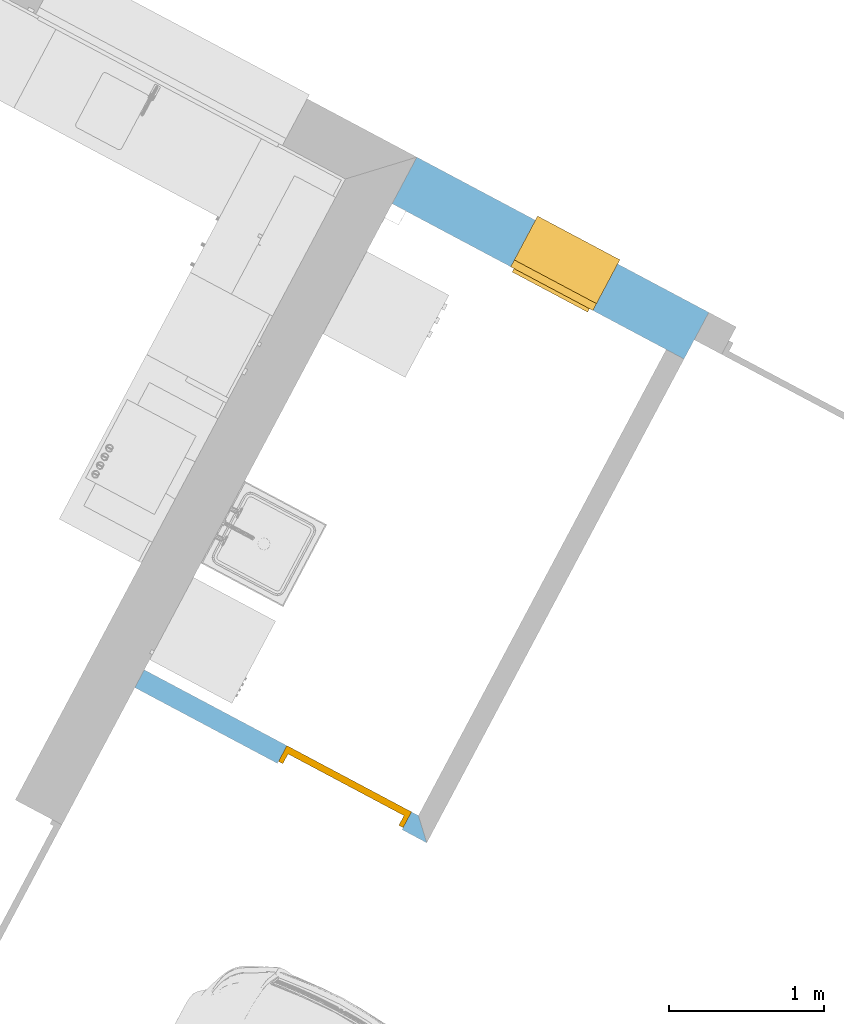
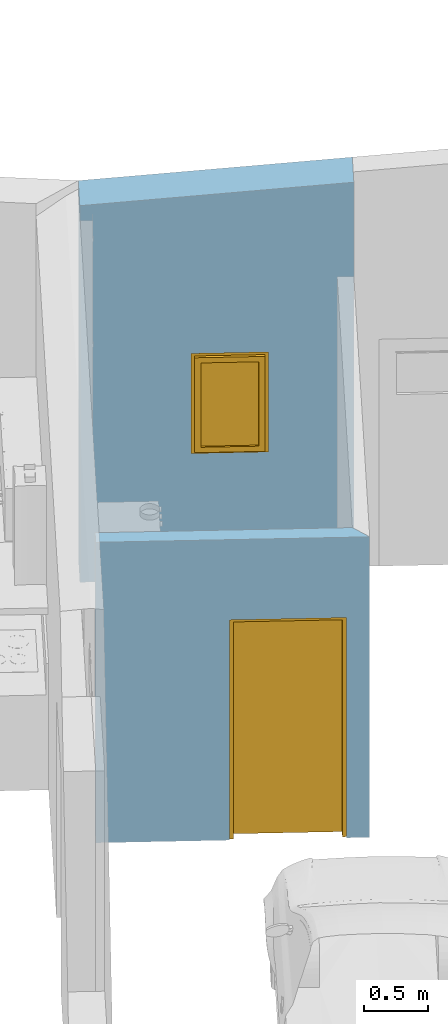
# One storey, part 12 of 27: 1 door, 1 window, 2 openings, plus 2 elements that do not belong to this part.
"""IFC2X3 building model written with IfcOpenShell, lengths in metres."""

from ifc_helpers import new_model, entity, si_unit, converted_unit, derived_unit, money_unit, direction, frame, origin_with_axes, origin_2d_with_axis, place, context, subcontext, project, spatial, polyline, rectangle, outline, extrude, clip, bounded_halfspace, open_shell, faceted_brep, surface_model, material, layer, layer_set, layer_usage, type_object, element, fill, save


model = new_model("IFC2X3")

# Units and contexts
model_context = context("Model", 3, precision=1e-05, world=origin_with_axes(), true_north=direction((0.0, 1.0)))
body_context = subcontext(model_context, "Body", "Model", "MODEL_VIEW")
ifc_project = project(units=[si_unit("LENGTHUNIT", "METRE"), si_unit("AREAUNIT", "SQUARE_METRE"), si_unit("VOLUMEUNIT", "CUBIC_METRE"), converted_unit("PLANEANGLEUNIT", "DEGREE", entity("IfcPlaneAngleMeasure", 0.0174532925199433), si_unit("PLANEANGLEUNIT", "RADIAN"), dimensions=[0, 0, 0, 0, 0, 0, 0]), money_unit("CHF"), converted_unit("TIMEUNIT", "Year", entity("IfcTimeMeasure", 31557600.0), si_unit("TIMEUNIT", "SECOND"), dimensions=[0, 0, 1, 0, 0, 0, 0]), si_unit("MASSUNIT", "GRAM", prefix="KILO"), si_unit("THERMODYNAMICTEMPERATUREUNIT", "DEGREE_CELSIUS"), si_unit("LUMINOUSINTENSITYUNIT", "LUMEN"), si_unit("ENERGYUNIT", "JOULE", prefix="MEGA"), derived_unit("THERMALCONDUCTANCEUNIT", [(si_unit("POWERUNIT", "WATT"), 1), (si_unit("LENGTHUNIT", "METRE"), -1), (si_unit("THERMODYNAMICTEMPERATUREUNIT", "KELVIN"), -1)]), derived_unit("SPECIFICHEATCAPACITYUNIT", [(si_unit("ENERGYUNIT", "JOULE"), 1), (si_unit("MASSUNIT", "GRAM", prefix="KILO"), -1), (si_unit("THERMODYNAMICTEMPERATUREUNIT", "KELVIN"), -1)]), derived_unit("MASSDENSITYUNIT", [(si_unit("MASSUNIT", "GRAM", prefix="KILO"), 1), (si_unit("VOLUMEUNIT", "CUBIC_METRE"), -1)])], contexts=[model_context])

# Site, building, storey
site_placement = place(None, frame((0.0, 0.0, 0.0), z_axis=(0.0, 0.0, 1.0), x_axis=(-0.4694715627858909, -0.8829475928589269, 0.0)))
site = spatial("IfcSite", under=ifc_project, at=site_placement, Name="Site", CompositionType="ELEMENT")
building_placement = place(site_placement, origin_with_axes())
building = spatial("IfcBuilding", under=site, at=building_placement, Name="Bâtiment", CompositionType="ELEMENT")
storey_placement = place(building_placement, origin_with_axes())
storey = spatial("IfcBuildingStorey", under=building, at=storey_placement, Name="RDC", CompositionType="ELEMENT", Elevation=0.0)

# Wall, opening, window
ifc_material_1 = material(Name="Maçonnerie 290464332")
ifc_layer_1 = layer(ifc_material_1, 0.2, ventilated="UNKNOWN")
ifc_material_2 = material(Name="Isolation 272048125")
ifc_layer_2 = layer(ifc_material_2, 0.14, ventilated="UNKNOWN")
ifc_layer_set_1 = layer_set([ifc_layer_1, ifc_layer_2], Name="MUR EXT 34 0024849982")
ifc_layer_usage_1 = layer_usage(ifc_layer_set_1, "AXIS2", "NEGATIVE", 0.0)
wall_type_1 = type_object("IfcWallType", Name="MUR EXT 34 0024849982 340", PredefinedType="NOTDEFINED")
wall_1_placement = place(storey_placement, frame((133.6895710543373, -828.6945991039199, 0.0), z_axis=(0.0, 0.0, 1.0), x_axis=(0.0, 1.0, 0.0)))
wall_1 = element("IfcWallStandardCase", 1, at=wall_1_placement, inside=storey, type_object=wall_type_1, material=ifc_layer_usage_1, Name="Mur-395", context=body_context, shape_type="Clipping", body=[
    clip(extrude(outline(polyline([(0.0, -0.3400000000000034), (2.129999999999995, -0.3400000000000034), (2.129999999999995, 0.0), (0.0, 0.0), (0.0, -0.3400000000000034)])), origin_with_axes(), (0.0, 0.0, 1.0), 5.0), bounded_halfspace(frame((-0.2839427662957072, 0.0, 3.54928457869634), z_axis=(0.07974522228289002, 0.0, -0.9968152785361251), x_axis=(0.0, 1.0, 0.0)), True, origin_with_axes(), polyline([(0.0, -0.3500000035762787), (7.000010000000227, -0.3500000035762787), (7.000010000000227, 0.01), (0.0, 0.01), (0.0, -0.3500000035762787)]))),
])
opening_1_placement = place(wall_1_placement, frame((1.165000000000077, 0.0, 1.2), z_axis=(0.0, 0.0, 1.0), x_axis=(1.0, 0.0, 0.0)))
opening_1 = element("IfcOpeningElement", 2, at=opening_1_placement, cuts=wall_1, Name="Fen-158", context=body_context, shape_type="SweptSolid", body=[
    extrude(rectangle(XDim=0.599999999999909, YDim=0.9500000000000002, at=origin_2d_with_axis()), frame((0.0, 0.3400000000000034, 0.4750000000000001), z_axis=(0.0, -1.0, 0.0), x_axis=(1.0, 0.0, 0.0)), (0.0, 0.0, 1.0), 1.02),
])
window_style = type_object("IfcWindowStyle", Name="Fen châssis simple 10", ConstructionType="NOTDEFINED", OperationType="SINGLE_PANEL", ParameterTakesPrecedence=False, Sizeable=False)
window_placement = place(opening_1_placement, frame((-0.2999999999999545, 0.0, 0.0), z_axis=(0.0, 0.0, 1.0), x_axis=(1.0, 0.0, 0.0)))
window = element("IfcWindow", 3, at=window_placement, inside=storey, type_object=window_style, Name="Fen-158", OverallHeight=0.95, OverallWidth=0.6, context=body_context, shape_type="SurfaceModel", body=[
    faceted_brep([(0.599999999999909, -0.289999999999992, 0.0), (0.599999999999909, 0.0, 0.0), (0.599999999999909, 0.0, 0.009801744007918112), (0.599999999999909, -0.289999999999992, 0.02499999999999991), (0.0, -0.289999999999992, 0.0), (0.0, 0.0, 0.0), (0.0, 0.03000000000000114, 0.0), (0.599999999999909, 0.03000000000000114, 0.0), (0.599999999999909, 0.03000000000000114, 0.008229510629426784), (0.0, 0.03000000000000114, 0.008229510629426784), (0.0, 0.0, 0.009801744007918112), (0.0, -0.289999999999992, 0.02499999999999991)], [[[0, 1, 2, 3]], [[0, 4, 5, 6, 7, 1]], [[1, 7, 8, 2]], [[3, 2, 8, 9, 10, 11]], [[4, 0, 3, 11]], [[5, 4, 11, 10]], [[6, 5, 10, 9]], [[7, 6, 9, 8]]]),
    faceted_brep([(0.04999999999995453, -0.3400000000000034, 0.8999999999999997), (0.04999999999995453, -0.289999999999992, 0.8999999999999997), (0.0, -0.289999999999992, 0.8999999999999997), (0.0, -0.3400000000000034, 0.8999999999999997), (0.04999999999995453, -0.3400000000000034, 0.05000000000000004), (0.04999999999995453, -0.289999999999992, 0.05000000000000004), (0.0, -0.289999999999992, 0.05000000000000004), (0.0, -0.3400000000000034, 0.05000000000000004)], [[[0, 1, 2, 3]], [[4, 5, 1, 0]], [[2, 1, 5, 6]], [[3, 2, 6, 7]], [[4, 0, 3, 7]], [[7, 6, 5, 4]]]),
    faceted_brep([(0.5499999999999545, -0.3400000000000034, 0.05000000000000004), (0.5499999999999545, -0.289999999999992, 0.05000000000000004), (0.599999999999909, -0.289999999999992, 0.05000000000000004), (0.599999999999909, -0.3400000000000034, 0.05000000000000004), (0.5499999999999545, -0.3400000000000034, 0.8999999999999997), (0.5499999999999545, -0.289999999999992, 0.8999999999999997), (0.599999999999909, -0.289999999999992, 0.8999999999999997), (0.599999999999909, -0.3400000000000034, 0.8999999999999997)], [[[0, 1, 2, 3]], [[4, 5, 1, 0]], [[2, 1, 5, 6]], [[3, 2, 6, 7]], [[4, 0, 3, 7]], [[7, 6, 5, 4]]]),
    faceted_brep([(0.5499999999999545, -0.3400000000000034, 0.8999999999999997), (0.5499999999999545, -0.289999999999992, 0.8999999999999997), (0.599999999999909, -0.289999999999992, 0.8999999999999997), (0.599999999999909, -0.3400000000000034, 0.8999999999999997), (0.04999999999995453, -0.3400000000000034, 0.8999999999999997), (0.04999999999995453, -0.289999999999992, 0.8999999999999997), (0.0, -0.289999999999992, 0.8999999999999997), (0.0, -0.289999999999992, 0.95), (0.599999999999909, -0.289999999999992, 0.95), (0.599999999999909, -0.3400000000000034, 0.95), (0.0, -0.3400000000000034, 0.95), (0.0, -0.3400000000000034, 0.8999999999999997)], [[[0, 1, 2, 3]], [[4, 5, 1, 0]], [[2, 1, 5, 6, 7, 8]], [[3, 2, 8, 9]], [[4, 0, 3, 9, 10, 11]], [[11, 6, 5, 4]], [[10, 7, 6, 11]], [[9, 8, 7, 10]]]),
    faceted_brep([(0.04999999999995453, -0.3400000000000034, 0.05000000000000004), (0.04999999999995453, -0.289999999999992, 0.05000000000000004), (0.0, -0.289999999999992, 0.05000000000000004), (0.0, -0.3400000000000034, 0.05000000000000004), (0.5499999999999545, -0.3400000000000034, 0.05000000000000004), (0.5499999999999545, -0.289999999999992, 0.05000000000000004), (0.599999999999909, -0.289999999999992, 0.05000000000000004), (0.599999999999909, -0.289999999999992, 0.0), (0.0, -0.289999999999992, 0.0), (0.0, -0.3400000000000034, 0.0), (0.599999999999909, -0.3400000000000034, 0.0), (0.599999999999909, -0.3400000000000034, 0.05000000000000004)], [[[0, 1, 2, 3]], [[4, 5, 1, 0]], [[2, 1, 5, 6, 7, 8]], [[3, 2, 8, 9]], [[4, 0, 3, 9, 10, 11]], [[11, 6, 5, 4]], [[10, 7, 6, 11]], [[9, 8, 7, 10]]]),
    faceted_brep([(0.5249999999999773, -0.3149999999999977, 0.07499999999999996), (0.5249999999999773, -0.3649999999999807, 0.07499999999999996), (0.5249999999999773, -0.3649999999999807, 0.8749999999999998), (0.5249999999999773, -0.3149999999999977, 0.8749999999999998), (0.5749999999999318, -0.3149999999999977, 0.07499999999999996), (0.5749999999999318, -0.3649999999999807, 0.07499999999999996), (0.5749999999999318, -0.3649999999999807, 0.8749999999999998), (0.5749999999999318, -0.3149999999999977, 0.8749999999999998)], [[[0, 1, 2, 3]], [[4, 5, 1, 0]], [[1, 5, 6, 2]], [[3, 2, 6, 7]], [[0, 3, 7, 4]], [[7, 6, 5, 4]]]),
    faceted_brep([(0.02499999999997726, -0.3149999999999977, 0.07499999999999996), (0.02499999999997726, -0.3649999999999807, 0.07499999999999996), (0.02499999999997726, -0.3649999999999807, 0.8749999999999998), (0.02499999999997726, -0.3149999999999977, 0.8749999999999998), (0.07499999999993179, -0.3149999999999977, 0.07499999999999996), (0.07499999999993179, -0.3649999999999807, 0.07499999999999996), (0.07499999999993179, -0.3649999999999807, 0.8749999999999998), (0.07499999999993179, -0.3149999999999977, 0.8749999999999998)], [[[0, 1, 2, 3]], [[4, 5, 1, 0]], [[1, 5, 6, 2]], [[3, 2, 6, 7]], [[0, 3, 7, 4]], [[7, 6, 5, 4]]]),
    faceted_brep([(0.02499999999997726, -0.3149999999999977, 0.02499999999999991), (0.02499999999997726, -0.3649999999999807, 0.02499999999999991), (0.02499999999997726, -0.3649999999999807, 0.07499999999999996), (0.02499999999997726, -0.3149999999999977, 0.07499999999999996), (0.5749999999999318, -0.3149999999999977, 0.02499999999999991), (0.5749999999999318, -0.3649999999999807, 0.02499999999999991), (0.5749999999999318, -0.3649999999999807, 0.07499999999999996), (0.5249999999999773, -0.3649999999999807, 0.07499999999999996), (0.07499999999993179, -0.3649999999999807, 0.07499999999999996), (0.07499999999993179, -0.3149999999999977, 0.07499999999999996), (0.5249999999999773, -0.3149999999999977, 0.07499999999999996), (0.5749999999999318, -0.3149999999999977, 0.07499999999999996)], [[[0, 1, 2, 3]], [[4, 5, 1, 0]], [[1, 5, 6, 7, 8, 2]], [[3, 2, 8, 9]], [[0, 3, 9, 10, 11, 4]], [[11, 6, 5, 4]], [[10, 7, 6, 11]], [[9, 8, 7, 10]]]),
    faceted_brep([(0.5749999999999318, -0.3149999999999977, 0.925), (0.5749999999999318, -0.3649999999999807, 0.925), (0.5749999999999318, -0.3649999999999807, 0.8749999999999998), (0.5749999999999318, -0.3149999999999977, 0.8749999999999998), (0.02499999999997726, -0.3149999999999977, 0.925), (0.02499999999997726, -0.3649999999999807, 0.925), (0.02499999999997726, -0.3649999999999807, 0.8749999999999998), (0.07499999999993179, -0.3649999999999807, 0.8749999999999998), (0.5249999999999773, -0.3649999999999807, 0.8749999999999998), (0.5249999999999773, -0.3149999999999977, 0.8749999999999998), (0.07499999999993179, -0.3149999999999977, 0.8749999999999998), (0.02499999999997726, -0.3149999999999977, 0.8749999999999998)], [[[0, 1, 2, 3]], [[4, 5, 1, 0]], [[1, 5, 6, 7, 8, 2]], [[3, 2, 8, 9]], [[0, 3, 9, 10, 11, 4]], [[11, 6, 5, 4]], [[10, 7, 6, 11]], [[9, 8, 7, 10]]]),
    surface_model("IfcShellBasedSurfaceModel", [(0.5249999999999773, -0.3299999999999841, 0.07499999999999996), (0.07499999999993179, -0.3299999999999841, 0.07499999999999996), (0.07499999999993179, -0.3299999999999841, 0.8749999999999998), (0.5249999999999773, -0.3299999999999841, 0.8749999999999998)], [open_shell([[[0, 1, 2, 3]]])]),
    surface_model("IfcShellBasedSurfaceModel", [(0.5249999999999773, -0.3499999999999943, 0.07499999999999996), (0.5249999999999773, -0.3499999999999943, 0.8749999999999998), (0.07499999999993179, -0.3499999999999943, 0.8749999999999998), (0.07499999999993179, -0.3499999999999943, 0.07499999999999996)], [open_shell([[[0, 1, 2, 3]]])]),
])
fill(opening_1, window)

# Wall, opening, door
ifc_layer_3 = layer(ifc_material_2, 0.01, ventilated="UNKNOWN")
ifc_material_3 = material(Name="Bloc béton 288373292")
ifc_layer_4 = layer(ifc_material_3, 0.11, ventilated="UNKNOWN")
ifc_layer_5 = layer(ifc_material_2, 0.01, ventilated="UNKNOWN")
ifc_layer_set_2 = layer_set([ifc_layer_3, ifc_layer_4, ifc_layer_5], Name="CLOISON PLACOSTYL 13 0024849982")
ifc_layer_usage_2 = layer_usage(ifc_layer_set_2, "AXIS2", "NEGATIVE", 0.0)
wall_type_2 = type_object("IfcWallType", Name="CLOISON PLACOSTYL 13 0024849982 130", PredefinedType="NOTDEFINED")
wall_2_placement = place(storey_placement, frame((137.4295710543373, -828.6945991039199, 0.0), z_axis=(0.0, 0.0, 1.0), x_axis=(0.0, 1.0, 0.0)))
wall_2 = element("IfcWallStandardCase", 4, at=wall_2_placement, inside=storey, type_object=wall_type_2, material=ifc_layer_usage_2, Name="Mur-397", context=body_context, shape_type="SweptSolid", body=[
    extrude(outline(polyline([(0.0, -0.1299999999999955), (2.129999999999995, -0.1299999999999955), (2.0, 0.0), (0.0, 0.0), (0.0, -0.1299999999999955)])), origin_with_axes(), (0.0, 0.0, 1.0), 2.85),
])
opening_2_placement = place(wall_2_placement, frame((1.495000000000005, 0.0, 0.0), z_axis=(0.0, 0.0, 1.0), x_axis=(1.0, 0.0, 0.0)))
opening_2 = element("IfcOpeningElement", 5, at=opening_2_placement, cuts=wall_2, Name="porte 77", context=body_context, shape_type="SweptSolid", body=[
    extrude(rectangle(XDim=0.9100000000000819, YDim=2.09, at=origin_2d_with_axis()), frame((0.0, -0.1299999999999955, 1.045), z_axis=(0.0, 1.0, 0.0), x_axis=(1.0, 0.0, 0.0)), (0.0, 0.0, 1.0), 0.39),
])
door_style = type_object("IfcDoorStyle", Name="P_int simple à carreaux 10", ConstructionType="NOTDEFINED", OperationType="SINGLE_SWING_RIGHT", ParameterTakesPrecedence=False, Sizeable=False)
door_placement = place(opening_2_placement, frame((-0.4550000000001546, 0.0, 0.0), z_axis=(0.0, 0.0, 1.0), x_axis=(1.0, 0.0, 0.0)))
door = element("IfcDoor", 6, at=door_placement, inside=storey, type_object=door_style, Name="porte 77", OverallHeight=2.09, OverallWidth=0.91, context=body_context, shape_type="Brep", body=[
    faceted_brep([(0.03200000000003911, -0.04400000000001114, 0.0), (0.03200000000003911, -0.04400000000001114, 2.058), (0.03200000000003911, -0.1150000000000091, 2.058), (0.03200000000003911, -0.1150000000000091, 0.0), (0.0200000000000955, -0.04400000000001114, 2.058), (0.0200000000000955, -0.04400000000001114, 0.0), (0.0200000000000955, 0.0, 2.058), (0.0, 0.0, 2.058), (0.0, -0.1150000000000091, 2.058), (0.0, -0.1150000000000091, 0.0), (0.0, 0.0, 0.0), (0.0200000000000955, 0.0, 0.0)], [[[0, 1, 2, 3]], [[4, 1, 0, 5]], [[4, 6, 7, 8, 2, 1]], [[2, 8, 9, 3]], [[5, 0, 3, 9, 10, 11]], [[6, 4, 5, 11]], [[6, 11, 10, 7]], [[10, 9, 8, 7]]]),
    faceted_brep([(0.8899999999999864, -0.04400000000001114, 2.058), (0.8780000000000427, -0.04400000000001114, 2.058), (0.8780000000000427, -0.1150000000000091, 2.058), (0.9100000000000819, -0.1150000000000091, 2.058), (0.9100000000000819, 0.0, 2.058), (0.8899999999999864, 0.0, 2.058), (0.8899999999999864, -0.04400000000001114, 0.0), (0.8780000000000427, -0.04400000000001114, 0.0), (0.8780000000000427, -0.1150000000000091, 0.0), (0.9100000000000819, -0.1150000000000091, 0.0), (0.9100000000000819, 0.0, 0.0), (0.8899999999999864, 0.0, 0.0)], [[[0, 1, 2, 3, 4, 5]], [[1, 0, 6, 7]], [[1, 7, 8, 2]], [[3, 2, 8, 9]], [[4, 3, 9, 10]], [[11, 5, 4, 10]], [[0, 5, 11, 6]], [[6, 11, 10, 9, 8, 7]]]),
    faceted_brep([(0.0200000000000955, 0.0, 2.07), (0.0200000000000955, 0.0, 2.058), (0.0, 0.0, 2.058), (0.0, 0.0, 2.09), (0.9100000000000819, 0.0, 2.09), (0.9100000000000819, 0.0, 2.058), (0.8899999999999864, 0.0, 2.058), (0.8899999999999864, 0.0, 2.07), (0.0200000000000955, -0.04400000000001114, 2.07), (0.0200000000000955, -0.04400000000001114, 2.058), (0.03200000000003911, -0.04400000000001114, 2.058), (0.03200000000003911, -0.1150000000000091, 2.058), (0.0, -0.1150000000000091, 2.058), (0.0, -0.1150000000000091, 2.09), (0.9100000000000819, -0.1150000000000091, 2.09), (0.9100000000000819, -0.1150000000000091, 2.058), (0.8899999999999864, -0.04400000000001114, 2.058), (0.8780000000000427, -0.1150000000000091, 2.058), (0.8780000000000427, -0.04400000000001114, 2.058), (0.8899999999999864, -0.04400000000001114, 2.07)], [[[0, 1, 2, 3, 4, 5, 6, 7]], [[1, 0, 8, 9]], [[9, 10, 11, 12, 2, 1]], [[2, 12, 13, 3]], [[3, 13, 14, 4]], [[4, 14, 15, 5]], [[16, 6, 5, 15, 17, 18]], [[7, 6, 16, 19]], [[0, 7, 19, 8]], [[16, 18, 10, 9, 8, 19]], [[10, 18, 17, 11]], [[17, 15, 14, 13, 12, 11]]]),
    faceted_brep([(0.3550000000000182, -0.04400000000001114, 0.0), (0.3550000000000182, -0.04400000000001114, 2.07), (0.0200000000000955, -0.04400000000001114, 2.07), (0.0200000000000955, -0.04400000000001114, 0.0), (0.3550000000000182, 0.0, 2.07), (0.3550000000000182, 0.0, 0.0), (0.0200000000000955, 0.0, 2.07), (0.0200000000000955, 0.0, 0.0)], [[[0, 1, 2, 3]], [[4, 1, 0, 5]], [[1, 4, 6, 2]], [[3, 2, 6, 7]], [[5, 0, 3, 7]], [[4, 5, 7, 6]]]),
    faceted_brep([(0.5550000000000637, 0.0, 2.07), (0.5550000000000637, -0.04400000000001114, 2.07), (0.8899999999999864, -0.04400000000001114, 2.07), (0.8899999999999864, 0.0, 2.07), (0.5550000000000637, -0.04400000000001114, 0.0), (0.5550000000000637, 0.0, 0.0), (0.8899999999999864, -0.04400000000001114, 0.0), (0.8899999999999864, 0.0, 0.0)], [[[0, 1, 2, 3]], [[4, 1, 0, 5]], [[1, 4, 6, 2]], [[2, 6, 7, 3]], [[5, 0, 3, 7]], [[4, 5, 7, 6]]]),
    faceted_brep([(0.3550000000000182, 0.0, 1.87), (0.3550000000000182, -0.04400000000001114, 1.87), (0.3550000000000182, -0.04400000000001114, 2.07), (0.3550000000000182, 0.0, 2.07), (0.5550000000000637, 0.0, 1.87), (0.5550000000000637, -0.04400000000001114, 1.87), (0.5550000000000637, -0.04400000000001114, 2.07), (0.5550000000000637, 0.0, 2.07)], [[[0, 1, 2, 3]], [[4, 5, 1, 0]], [[1, 5, 6, 2]], [[3, 2, 6, 7]], [[0, 3, 7, 4]], [[7, 6, 5, 4]]]),
    faceted_brep([(0.3550000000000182, 0.0, 1.67), (0.3550000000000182, -0.04400000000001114, 1.67), (0.3550000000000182, -0.04400000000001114, 1.87), (0.3550000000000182, 0.0, 1.87), (0.5550000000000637, 0.0, 1.67), (0.5550000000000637, -0.04400000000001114, 1.67), (0.5550000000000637, -0.04400000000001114, 1.87), (0.5550000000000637, 0.0, 1.87)], [[[0, 1, 2, 3]], [[4, 5, 1, 0]], [[1, 5, 6, 2]], [[3, 2, 6, 7]], [[0, 3, 7, 4]], [[7, 6, 5, 4]]]),
    faceted_brep([(0.3550000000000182, 0.0, 1.47), (0.3550000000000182, -0.04400000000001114, 1.47), (0.3550000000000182, -0.04400000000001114, 1.67), (0.3550000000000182, 0.0, 1.67), (0.5550000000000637, 0.0, 1.47), (0.5550000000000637, -0.04400000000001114, 1.47), (0.5550000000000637, -0.04400000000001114, 1.67), (0.5550000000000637, 0.0, 1.67)], [[[0, 1, 2, 3]], [[4, 5, 1, 0]], [[1, 5, 6, 2]], [[3, 2, 6, 7]], [[0, 3, 7, 4]], [[7, 6, 5, 4]]]),
    faceted_brep([(0.3550000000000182, 0.0, 1.27), (0.3550000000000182, -0.04400000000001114, 1.27), (0.3550000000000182, -0.04400000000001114, 1.47), (0.3550000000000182, 0.0, 1.47), (0.5550000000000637, 0.0, 1.27), (0.5550000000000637, -0.04400000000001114, 1.27), (0.5550000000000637, -0.04400000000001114, 1.47), (0.5550000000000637, 0.0, 1.47)], [[[0, 1, 2, 3]], [[4, 5, 1, 0]], [[1, 5, 6, 2]], [[3, 2, 6, 7]], [[0, 3, 7, 4]], [[7, 6, 5, 4]]]),
    faceted_brep([(0.3550000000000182, 0.0, 1.07), (0.3550000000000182, -0.04400000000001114, 1.07), (0.3550000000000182, -0.04400000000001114, 1.27), (0.3550000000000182, 0.0, 1.27), (0.5550000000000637, 0.0, 1.07), (0.5550000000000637, -0.04400000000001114, 1.07), (0.5550000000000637, -0.04400000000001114, 1.27), (0.5550000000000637, 0.0, 1.27)], [[[0, 1, 2, 3]], [[4, 5, 1, 0]], [[1, 5, 6, 2]], [[3, 2, 6, 7]], [[0, 3, 7, 4]], [[7, 6, 5, 4]]]),
    faceted_brep([(0.3550000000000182, 0.0, 0.8700000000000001), (0.3550000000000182, -0.04400000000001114, 0.8700000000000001), (0.3550000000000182, -0.04400000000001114, 1.07), (0.3550000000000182, 0.0, 1.07), (0.5550000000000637, 0.0, 0.8700000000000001), (0.5550000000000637, -0.04400000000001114, 0.8700000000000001), (0.5550000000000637, -0.04400000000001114, 1.07), (0.5550000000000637, 0.0, 1.07)], [[[0, 1, 2, 3]], [[4, 5, 1, 0]], [[1, 5, 6, 2]], [[3, 2, 6, 7]], [[0, 3, 7, 4]], [[7, 6, 5, 4]]]),
    faceted_brep([(0.3550000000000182, 0.0, 0.6700000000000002), (0.3550000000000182, -0.04400000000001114, 0.6700000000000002), (0.3550000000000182, -0.04400000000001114, 0.8700000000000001), (0.3550000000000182, 0.0, 0.8700000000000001), (0.5550000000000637, 0.0, 0.6700000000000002), (0.5550000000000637, -0.04400000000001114, 0.6700000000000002), (0.5550000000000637, -0.04400000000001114, 0.8700000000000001), (0.5550000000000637, 0.0, 0.8700000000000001)], [[[0, 1, 2, 3]], [[4, 5, 1, 0]], [[1, 5, 6, 2]], [[3, 2, 6, 7]], [[0, 3, 7, 4]], [[7, 6, 5, 4]]]),
    faceted_brep([(0.3550000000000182, 0.0, 0.4700000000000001), (0.3550000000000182, -0.04400000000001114, 0.4700000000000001), (0.3550000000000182, -0.04400000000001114, 0.6700000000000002), (0.3550000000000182, 0.0, 0.6700000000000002), (0.5550000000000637, 0.0, 0.4700000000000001), (0.5550000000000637, -0.04400000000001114, 0.4700000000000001), (0.5550000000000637, -0.04400000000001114, 0.6700000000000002), (0.5550000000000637, 0.0, 0.6700000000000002)], [[[0, 1, 2, 3]], [[4, 5, 1, 0]], [[1, 5, 6, 2]], [[3, 2, 6, 7]], [[0, 3, 7, 4]], [[7, 6, 5, 4]]]),
    faceted_brep([(0.3550000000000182, 0.0, 0.2700000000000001), (0.3550000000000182, -0.04400000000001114, 0.2700000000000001), (0.3550000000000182, -0.04400000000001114, 0.4700000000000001), (0.3550000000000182, 0.0, 0.4700000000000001), (0.5550000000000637, 0.0, 0.2700000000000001), (0.5550000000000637, -0.04400000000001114, 0.2700000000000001), (0.5550000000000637, -0.04400000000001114, 0.4700000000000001), (0.5550000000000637, 0.0, 0.4700000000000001)], [[[0, 1, 2, 3]], [[4, 5, 1, 0]], [[1, 5, 6, 2]], [[3, 2, 6, 7]], [[0, 3, 7, 4]], [[7, 6, 5, 4]]]),
    faceted_brep([(0.3550000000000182, 0.0, 0.0700000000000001), (0.3550000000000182, -0.04400000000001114, 0.0700000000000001), (0.3550000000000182, -0.04400000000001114, 0.2700000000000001), (0.3550000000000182, 0.0, 0.2700000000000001), (0.5550000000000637, 0.0, 0.0700000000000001), (0.5550000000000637, -0.04400000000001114, 0.0700000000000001), (0.5550000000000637, -0.04400000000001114, 0.2700000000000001), (0.5550000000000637, 0.0, 0.2700000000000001)], [[[0, 1, 2, 3]], [[4, 5, 1, 0]], [[1, 5, 6, 2]], [[3, 2, 6, 7]], [[0, 3, 7, 4]], [[7, 6, 5, 4]]]),
    faceted_brep([(0.3550000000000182, -0.04400000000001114, 0.0), (0.5550000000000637, -0.04400000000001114, 0.0), (0.5550000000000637, -0.04400000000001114, 0.07000000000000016), (0.3550000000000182, -0.04400000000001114, 0.07000000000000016), (0.5550000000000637, 0.0, 0.0), (0.3550000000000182, 0.0, 0.0), (0.5550000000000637, 0.0, 0.07000000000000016), (0.3550000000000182, 0.0, 0.07000000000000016)], [[[0, 1, 2, 3]], [[4, 1, 0, 5]], [[1, 4, 6, 2]], [[3, 2, 6, 7]], [[5, 0, 3, 7]], [[4, 5, 7, 6]]]),
])
fill(opening_2, door)

save(model, "model.ifc")
